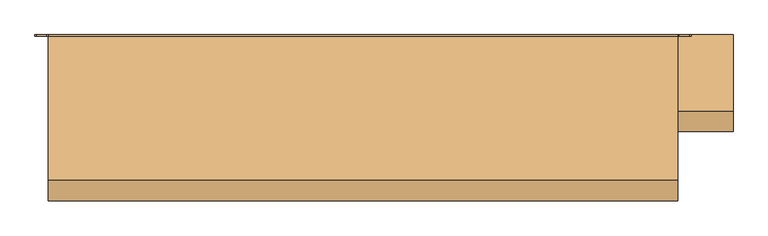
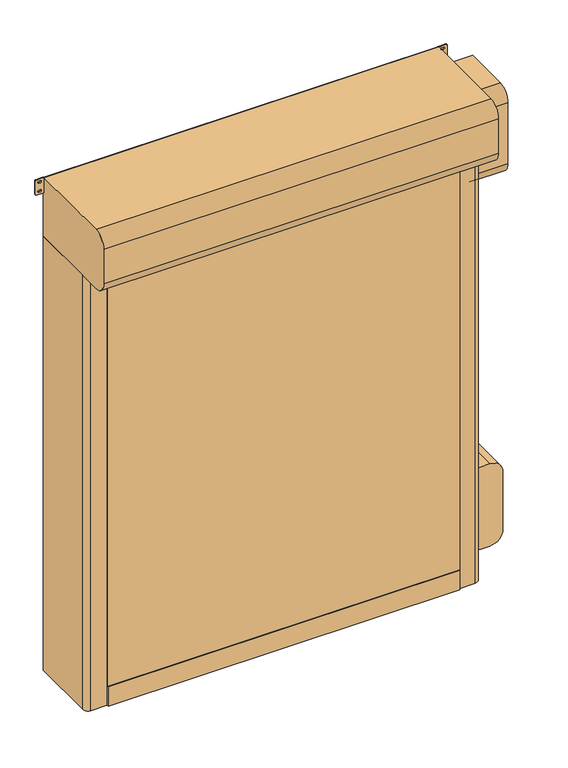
"""IFC4 building model written with IfcOpenShell, lengths in millimetres: door geometry, DO_WPB_Dynamicroll Frigo_Air_BMP : Dynamicroll Frigo2."""

from ifc_helpers import new_model, si_unit, point, frame, frame_2d, origin, origin_with_axes, place, context, project, spatial, polyline, circle_curve, trimmed, segment, composite_curve, outline, extrude, source, transform, mapped, element, save


def door_ffd00a84(model_context):
    return source(origin(), model_context, "Body", "SweptSolid", [
        extrude(outline(polyline([(-1012.0, -421.5), (1012.0, -421.5), (1012.0, -428.5), (-1012.0, -428.5), (-1012.0, -421.5)])), frame((0.0, 0.0, 120.0), z_axis=(0.0, 0.0, 1.0), x_axis=(1.0, 0.0, 0.0)), (0.0, 0.0, 1.0), 2700.0),
        extrude(outline(polyline([(-1012.0, -419.5), (1012.0, -419.5), (1012.0, -430.5), (-1012.0, -430.5), (-1012.0, -419.5)])), origin_with_axes(), (0.0, 0.0, 1.0), 120.0),
        extrude(outline(composite_curve([segment(trimmed(circle_curve(frame_2d((1905.0, 1071.0)), 6.0), [point((1911.0, 1071.0))], [point((1899.0, 1071.0))], False, "CARTESIAN"), True, "CONTINUOUS"), segment(polyline([(1899.0, 1071.0), (1899.0, 1089.0)]), True, "CONTINUOUS"), segment(trimmed(circle_curve(frame_2d((1905.0, 1089.0)), 6.0), [point((1899.0, 1089.0))], [point((1911.0, 1089.0))], False, "CARTESIAN"), True, "CONTINUOUS"), segment(polyline([(1911.0, 1089.0), (1911.0, 1071.0)]), True, "CONTINUOUS")], self_intersect=False)), frame((0.0, -20.0, 0.0), z_axis=(0.0, 1.0, 0.0), x_axis=(0.0, 0.0, 1.0)), (0.0, 0.0, 1.0), 20.0),
        extrude(outline(composite_curve([segment(trimmed(circle_curve(frame_2d((1320.0, 1071.0)), 6.0), [point((1326.0, 1071.0))], [point((1314.0, 1071.0))], False, "CARTESIAN"), True, "CONTINUOUS"), segment(polyline([(1314.0, 1071.0), (1314.0, 1089.0)]), True, "CONTINUOUS"), segment(trimmed(circle_curve(frame_2d((1320.0, 1089.0)), 6.0), [point((1314.0, 1089.0))], [point((1326.0, 1089.0))], False, "CARTESIAN"), True, "CONTINUOUS"), segment(polyline([(1326.0, 1089.0), (1326.0, 1071.0)]), True, "CONTINUOUS")], self_intersect=False)), frame((0.0, -20.0, 0.0), z_axis=(0.0, 1.0, 0.0), x_axis=(0.0, 0.0, 1.0)), (0.0, 0.0, 1.0), 20.0),
        extrude(outline(composite_curve([segment(trimmed(circle_curve(frame_2d((735.0, 1071.0)), 6.0), [point((741.0, 1071.0))], [point((729.0, 1071.0))], False, "CARTESIAN"), True, "CONTINUOUS"), segment(polyline([(729.0, 1071.0), (729.0, 1089.0)]), True, "CONTINUOUS"), segment(trimmed(circle_curve(frame_2d((735.0, 1089.0)), 6.0), [point((729.0, 1089.0))], [point((741.0, 1089.0))], False, "CARTESIAN"), True, "CONTINUOUS"), segment(polyline([(741.0, 1089.0), (741.0, 1071.0)]), True, "CONTINUOUS")], self_intersect=False)), frame((0.0, -20.0, 0.0), z_axis=(0.0, 1.0, 0.0), x_axis=(0.0, 0.0, 1.0)), (0.0, 0.0, 1.0), 20.0),
        extrude(outline(composite_curve([segment(trimmed(circle_curve(frame_2d((2490.0, 1071.0)), 6.0), [point((2496.0, 1071.0))], [point((2484.0, 1071.0))], False, "CARTESIAN"), True, "CONTINUOUS"), segment(polyline([(2484.0, 1071.0), (2484.0, 1089.0)]), True, "CONTINUOUS"), segment(trimmed(circle_curve(frame_2d((2490.0, 1089.0)), 6.0), [point((2484.0, 1089.0))], [point((2496.0, 1089.0))], False, "CARTESIAN"), True, "CONTINUOUS"), segment(polyline([(2496.0, 1089.0), (2496.0, 1071.0)]), True, "CONTINUOUS")], self_intersect=False)), frame((0.0, -20.0, 0.0), z_axis=(0.0, 1.0, 0.0), x_axis=(0.0, 0.0, 1.0)), (0.0, 0.0, 1.0), 20.0),
        extrude(outline(composite_curve([segment(trimmed(circle_curve(frame_2d((150.0, 1071.0)), 6.0), [point((156.0, 1071.0))], [point((144.0, 1071.0))], False, "CARTESIAN"), True, "CONTINUOUS"), segment(polyline([(144.0, 1071.0), (144.0, 1089.0)]), True, "CONTINUOUS"), segment(trimmed(circle_curve(frame_2d((150.0, 1089.0)), 6.0), [point((144.0, 1089.0))], [point((156.0, 1089.0))], False, "CARTESIAN"), True, "CONTINUOUS"), segment(polyline([(156.0, 1089.0), (156.0, 1071.0)]), True, "CONTINUOUS")], self_intersect=False)), frame((0.0, -20.0, 0.0), z_axis=(0.0, 1.0, 0.0), x_axis=(0.0, 0.0, 1.0)), (0.0, 0.0, 1.0), 20.0),
        extrude(outline(composite_curve([segment(polyline([(1911.0, -1071.0), (1911.0, -1089.0)]), True, "CONTINUOUS"), segment(trimmed(circle_curve(frame_2d((1905.0, -1089.0)), 6.0), [point((1911.0, -1089.0))], [point((1899.0, -1089.0))], False, "CARTESIAN"), True, "CONTINUOUS"), segment(polyline([(1899.0, -1089.0), (1899.0, -1071.0)]), True, "CONTINUOUS"), segment(trimmed(circle_curve(frame_2d((1905.0, -1071.0)), 6.0), [point((1899.0, -1071.0))], [point((1911.0, -1071.0))], False, "CARTESIAN"), True, "CONTINUOUS")], self_intersect=False)), frame((0.0, -20.0, 0.0), z_axis=(0.0, 1.0, 0.0), x_axis=(0.0, 0.0, 1.0)), (0.0, 0.0, 1.0), 20.0),
        extrude(outline(composite_curve([segment(polyline([(1326.0, -1071.0), (1326.0, -1089.0)]), True, "CONTINUOUS"), segment(trimmed(circle_curve(frame_2d((1320.0, -1089.0)), 6.0), [point((1326.0, -1089.0))], [point((1314.0, -1089.0))], False, "CARTESIAN"), True, "CONTINUOUS"), segment(polyline([(1314.0, -1089.0), (1314.0, -1071.0)]), True, "CONTINUOUS"), segment(trimmed(circle_curve(frame_2d((1320.0, -1071.0)), 6.0), [point((1314.0, -1071.0))], [point((1326.0, -1071.0))], False, "CARTESIAN"), True, "CONTINUOUS")], self_intersect=False)), frame((0.0, -20.0, 0.0), z_axis=(0.0, 1.0, 0.0), x_axis=(0.0, 0.0, 1.0)), (0.0, 0.0, 1.0), 20.0),
        extrude(outline(composite_curve([segment(polyline([(741.0, -1071.0), (741.0, -1089.0)]), True, "CONTINUOUS"), segment(trimmed(circle_curve(frame_2d((735.0, -1089.0)), 6.0), [point((741.0, -1089.0))], [point((729.0, -1089.0))], False, "CARTESIAN"), True, "CONTINUOUS"), segment(polyline([(729.0, -1089.0), (729.0, -1071.0)]), True, "CONTINUOUS"), segment(trimmed(circle_curve(frame_2d((735.0, -1071.0)), 6.0), [point((729.0, -1071.0))], [point((741.0, -1071.0))], False, "CARTESIAN"), True, "CONTINUOUS")], self_intersect=False)), frame((0.0, -20.0, 0.0), z_axis=(0.0, 1.0, 0.0), x_axis=(0.0, 0.0, 1.0)), (0.0, 0.0, 1.0), 20.0),
        extrude(outline(composite_curve([segment(polyline([(2496.0, -1071.0), (2496.0, -1089.0)]), True, "CONTINUOUS"), segment(trimmed(circle_curve(frame_2d((2490.0, -1089.0)), 6.0), [point((2496.0, -1089.0))], [point((2484.0, -1089.0))], False, "CARTESIAN"), True, "CONTINUOUS"), segment(polyline([(2484.0, -1089.0), (2484.0, -1071.0)]), True, "CONTINUOUS"), segment(trimmed(circle_curve(frame_2d((2490.0, -1071.0)), 6.0), [point((2484.0, -1071.0))], [point((2496.0, -1071.0))], False, "CARTESIAN"), True, "CONTINUOUS")], self_intersect=False)), frame((0.0, -20.0, 0.0), z_axis=(0.0, 1.0, 0.0), x_axis=(0.0, 0.0, 1.0)), (0.0, 0.0, 1.0), 20.0),
        extrude(outline(composite_curve([segment(polyline([(156.0, -1071.0), (156.0, -1089.0)]), True, "CONTINUOUS"), segment(trimmed(circle_curve(frame_2d((150.0, -1089.0)), 6.0), [point((156.0, -1089.0))], [point((144.0, -1089.0))], False, "CARTESIAN"), True, "CONTINUOUS"), segment(polyline([(144.0, -1089.0), (144.0, -1071.0)]), True, "CONTINUOUS"), segment(trimmed(circle_curve(frame_2d((150.0, -1071.0)), 6.0), [point((144.0, -1071.0))], [point((156.0, -1071.0))], False, "CARTESIAN"), True, "CONTINUOUS")], self_intersect=False)), frame((0.0, -20.0, 0.0), z_axis=(0.0, 1.0, 0.0), x_axis=(0.0, 0.0, 1.0)), (0.0, 0.0, 1.0), 20.0),
        extrude(outline(polyline([(-1012.0, -221.5), (1012.0, -221.5), (1012.0, -228.5), (-1012.0, -228.5), (-1012.0, -221.5)])), frame((0.0, 0.0, 120.0), z_axis=(0.0, 0.0, 1.0), x_axis=(1.0, 0.0, 0.0)), (0.0, 0.0, 1.0), 2700.0),
        extrude(outline(polyline([(-1012.0, -219.5), (1012.0, -219.5), (1012.0, -230.5), (-1012.0, -230.5), (-1012.0, -219.5)])), origin_with_axes(), (0.0, 0.0, 1.0), 120.0),
        extrude(outline(composite_curve([segment(polyline([(-1135.0, 0.0), (-1015.0, 0.0), (-1015.0, -209.2857143), (-1035.0, -215.0), (-1000.0, -215.0), (-1000.0, -221.5), (-1020.0, -221.5), (-1020.0, -228.5), (-1000.0, -228.5), (-1000.0, -235.0), (-1035.0, -235.0), (-1035.0, -250.0), (-1005.0, -250.0), (-1005.0, -420.0), (-1105.0, -420.0)]), True, "CONTINUOUS"), segment(trimmed(circle_curve(frame_2d((-1105.0, -390.0)), 30.0), [point((-1105.0, -420.0))], [point((-1135.0, -390.0))], False, "CARTESIAN"), True, "CONTINUOUS"), segment(polyline([(-1135.0, -390.0), (-1135.0, 0.0)]), True, "CONTINUOUS")], self_intersect=False)), origin_with_axes(), (0.0, 0.0, 1.0), 2640.0),
        extrude(outline(composite_curve([segment(polyline([(1135.0, 0.0), (1135.0, -390.0)]), True, "CONTINUOUS"), segment(trimmed(circle_curve(frame_2d((1105.0, -390.0)), 30.0), [point((1135.0, -390.0))], [point((1105.0, -420.0))], False, "CARTESIAN"), True, "CONTINUOUS"), segment(polyline([(1105.0, -420.0), (1005.0, -420.0), (1005.0, -250.0), (1035.0, -250.0), (1035.0, -235.0), (1000.0, -235.0), (1000.0, -228.5), (1020.0, -228.5), (1020.0, -221.5), (1000.0, -221.5), (1000.0, -215.0), (1035.0, -215.0), (1015.0, -209.2857143), (1015.0, 0.0), (1135.0, 0.0)]), True, "CONTINUOUS")], self_intersect=False)), origin_with_axes(), (0.0, 0.0, 1.0), 2640.0),
        extrude(outline(composite_curve([segment(polyline([(600.0, 1260.0), (600.0, 1135.0), (100.0, 1135.0), (100.0, 1260.0)]), True, "CONTINUOUS"), segment(trimmed(circle_curve(frame_2d((175.0, 1260.0)), 75.0), [point((100.0, 1260.0))], [point((175.0, 1335.0))], False, "CARTESIAN"), True, "CONTINUOUS"), segment(polyline([(175.0, 1335.0), (525.0, 1335.0)]), True, "CONTINUOUS"), segment(trimmed(circle_curve(frame_2d((525.0, 1260.0)), 75.0), [point((525.0, 1335.0))], [point((600.0, 1260.0))], False, "CARTESIAN"), True, "CONTINUOUS")], self_intersect=False)), frame((0.0, -300.0, 0.0), z_axis=(0.0, 1.0, 0.0), x_axis=(0.0, 0.0, 1.0)), (0.0, 0.0, 1.0), 200.0),
        extrude(outline(composite_curve([segment(trimmed(circle_curve(frame_2d((2913.75, 1140.75)), 5.75), [point((2913.75, 1135.0))], [point((2908.0, 1140.75))], False, "CARTESIAN"), True, "CONTINUOUS"), segment(polyline([(2908.0, 1140.75), (2908.0, 1178.25)]), True, "CONTINUOUS"), segment(trimmed(circle_curve(frame_2d((2913.75, 1178.25)), 5.75), [point((2908.0, 1178.25))], [point((2913.75, 1184.0))], False, "CARTESIAN"), True, "CONTINUOUS"), segment(polyline([(2913.75, 1184.0), (2994.25, 1184.0)]), True, "CONTINUOUS"), segment(trimmed(circle_curve(frame_2d((2994.25, 1178.25)), 5.75), [point((2994.25, 1184.0))], [point((3000.0, 1178.25))], False, "CARTESIAN"), True, "CONTINUOUS"), segment(polyline([(3000.0, 1178.25), (3000.0, 1140.75)]), True, "CONTINUOUS"), segment(trimmed(circle_curve(frame_2d((2994.25, 1140.75)), 5.75), [point((3000.0, 1140.75))], [point((2994.25, 1135.0))], False, "CARTESIAN"), True, "CONTINUOUS"), segment(polyline([(2994.25, 1135.0), (2913.75, 1135.0)]), True, "CONTINUOUS")], self_intersect=False), holes=[composite_curve([segment(trimmed(circle_curve(frame_2d((2981.5, 1163.75)), 5.75), [point((2987.25, 1163.75))], [point((2975.75, 1163.75))], True, "CARTESIAN"), True, "CONTINUOUS"), segment(polyline([(2975.75, 1163.75), (2975.75, 1155.25)]), True, "CONTINUOUS"), segment(trimmed(circle_curve(frame_2d((2981.5, 1155.25)), 5.75), [point((2975.75, 1155.25))], [point((2987.25, 1155.25))], True, "CARTESIAN"), True, "CONTINUOUS"), segment(polyline([(2987.25, 1155.25), (2987.25, 1163.75)]), True, "CONTINUOUS")], self_intersect=False), composite_curve([segment(trimmed(circle_curve(frame_2d((2926.5, 1163.75)), 5.75), [point((2932.25, 1163.75))], [point((2920.75, 1163.75))], True, "CARTESIAN"), True, "CONTINUOUS"), segment(polyline([(2920.75, 1163.75), (2920.75, 1155.25)]), True, "CONTINUOUS"), segment(trimmed(circle_curve(frame_2d((2926.5, 1155.25)), 5.75), [point((2920.75, 1155.25))], [point((2932.25, 1155.25))], True, "CARTESIAN"), True, "CONTINUOUS"), segment(polyline([(2932.25, 1155.25), (2932.25, 1163.75)]), True, "CONTINUOUS")], self_intersect=False)]), frame((0.0, -5.0, 0.0), z_axis=(0.0, 1.0, 0.0), x_axis=(0.0, 0.0, 1.0)), (0.0, 0.0, 1.0), 5.0),
        extrude(outline(composite_curve([segment(trimmed(circle_curve(frame_2d((2913.75, -1178.25)), 5.75), [point((2913.75, -1184.0))], [point((2908.0, -1178.25))], False, "CARTESIAN"), True, "CONTINUOUS"), segment(polyline([(2908.0, -1178.25), (2908.0, -1140.75)]), True, "CONTINUOUS"), segment(trimmed(circle_curve(frame_2d((2913.75, -1140.75)), 5.75), [point((2908.0, -1140.75))], [point((2913.75, -1135.0))], False, "CARTESIAN"), True, "CONTINUOUS"), segment(polyline([(2913.75, -1135.0), (2994.25, -1135.0)]), True, "CONTINUOUS"), segment(trimmed(circle_curve(frame_2d((2994.25, -1140.75)), 5.75), [point((2994.25, -1135.0))], [point((3000.0, -1140.75))], False, "CARTESIAN"), True, "CONTINUOUS"), segment(polyline([(3000.0, -1140.75), (3000.0, -1178.25)]), True, "CONTINUOUS"), segment(trimmed(circle_curve(frame_2d((2994.25, -1178.25)), 5.75), [point((3000.0, -1178.25))], [point((2994.25, -1184.0))], False, "CARTESIAN"), True, "CONTINUOUS"), segment(polyline([(2994.25, -1184.0), (2913.75, -1184.0)]), True, "CONTINUOUS")], self_intersect=False), holes=[composite_curve([segment(trimmed(circle_curve(frame_2d((2981.5, -1155.25)), 5.75), [point((2987.25, -1155.25))], [point((2975.75, -1155.25))], True, "CARTESIAN"), True, "CONTINUOUS"), segment(polyline([(2975.75, -1155.25), (2975.75, -1163.75)]), True, "CONTINUOUS"), segment(trimmed(circle_curve(frame_2d((2981.5, -1163.75)), 5.75), [point((2975.75, -1163.75))], [point((2987.25, -1163.75))], True, "CARTESIAN"), True, "CONTINUOUS"), segment(polyline([(2987.25, -1163.75), (2987.25, -1155.25)]), True, "CONTINUOUS")], self_intersect=False), composite_curve([segment(trimmed(circle_curve(frame_2d((2926.5, -1155.25)), 5.75), [point((2932.25, -1155.25))], [point((2920.75, -1155.25))], True, "CARTESIAN"), True, "CONTINUOUS"), segment(polyline([(2920.75, -1155.25), (2920.75, -1163.75)]), True, "CONTINUOUS"), segment(trimmed(circle_curve(frame_2d((2926.5, -1163.75)), 5.75), [point((2920.75, -1163.75))], [point((2932.25, -1163.75))], True, "CARTESIAN"), True, "CONTINUOUS"), segment(polyline([(2932.25, -1163.75), (2932.25, -1155.25)]), True, "CONTINUOUS")], self_intersect=False)]), frame((0.0, -5.0, 0.0), z_axis=(0.0, 1.0, 0.0), x_axis=(0.0, 0.0, 1.0)), (0.0, 0.0, 1.0), 5.0),
        extrude(outline(composite_curve([segment(trimmed(circle_curve(frame_2d((-5.0, 2645.0)), 5.0), [point((0.0, 2645.0))], [point((-5.0, 2640.0))], False, "CARTESIAN"), True, "CONTINUOUS"), segment(polyline([(-5.0, 2640.0), (-525.0, 2640.0)]), True, "CONTINUOUS"), segment(trimmed(circle_curve(frame_2d((-525.0, 2715.0)), 75.0), [point((-525.0, 2640.0))], [point((-600.0, 2715.0))], False, "CARTESIAN"), True, "CONTINUOUS"), segment(polyline([(-600.0, 2715.0), (-600.0, 2925.0)]), True, "CONTINUOUS"), segment(trimmed(circle_curve(frame_2d((-525.0, 2925.0)), 75.0), [point((-600.0, 2925.0))], [point((-525.0, 3000.0))], False, "CARTESIAN"), True, "CONTINUOUS"), segment(polyline([(-525.0, 3000.0), (-5.0, 3000.0)]), True, "CONTINUOUS"), segment(trimmed(circle_curve(frame_2d((-5.0, 2995.0)), 5.0), [point((-5.0, 3000.0))], [point((0.0, 2995.0))], False, "CARTESIAN"), True, "CONTINUOUS"), segment(polyline([(0.0, 2995.0), (0.0, 2645.0)]), True, "CONTINUOUS")], self_intersect=False)), frame((-1135.0, 0.0, 0.0), z_axis=(1.0, 0.0, 0.0), x_axis=(0.0, 1.0, 0.0)), (0.0, 0.0, 1.0), 2270.0),
        extrude(outline(composite_curve([segment(polyline([(0.0, 2875.0), (0.0, 2355.0), (-275.0, 2355.0)]), True, "CONTINUOUS"), segment(trimmed(circle_curve(frame_2d((-275.0, 2430.0)), 75.0), [point((-275.0, 2355.0))], [point((-350.0, 2430.0))], False, "CARTESIAN"), True, "CONTINUOUS"), segment(polyline([(-350.0, 2430.0), (-350.0, 2800.0)]), True, "CONTINUOUS"), segment(trimmed(circle_curve(frame_2d((-275.0, 2800.0)), 75.0), [point((-350.0, 2800.0))], [point((-275.0, 2875.0))], False, "CARTESIAN"), True, "CONTINUOUS"), segment(polyline([(-275.0, 2875.0), (0.0, 2875.0)]), True, "CONTINUOUS")], self_intersect=False)), frame((1135.0, 0.0, 0.0), z_axis=(1.0, 0.0, 0.0), x_axis=(0.0, 1.0, 0.0)), (0.0, 0.0, 1.0), 200.0),
    ])


if __name__ == "__main__":
    model = new_model("IFC4")
    model_context = context("Model", 3, world=origin())
    ifc_project = project(units=[si_unit("LENGTHUNIT", "METRE", prefix="MILLI")], contexts=[model_context])
    site = spatial("IfcSite", under=ifc_project)
    building = spatial("IfcBuilding", under=site)
    placement = place(None, origin())
    door_shape = door_ffd00a84(model_context)
    element("IfcDoor", 1, ObjectType="DO_WPB_Dynamicroll Frigo_Air_BMP : Dynamicroll Frigo2", at=placement, inside=building, context=model_context, shape_type="MappedRepresentation", body=[
        mapped(door_shape, transform((0.0, 0.0, 0.0), x_axis=(1.0, 0.0, 0.0), y_axis=(0.0, 1.0, 0.0), z_axis=(0.0, 0.0, 1.0))),
    ])
    save(model, "model.ifc")
